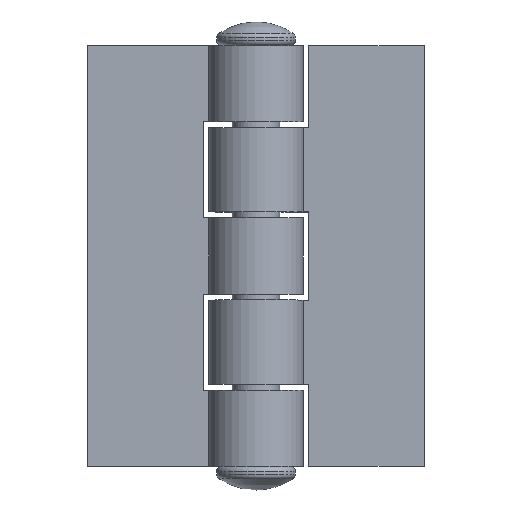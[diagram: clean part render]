
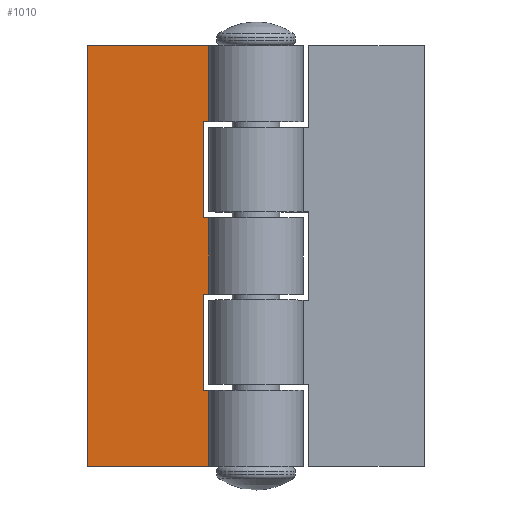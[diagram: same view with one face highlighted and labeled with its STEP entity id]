
A CAD part, top view. The second image highlights one B-rep face of the part: STEP entity #1010.
In plain terms, the highlighted planar face has unit normal (0, 0, 1) as drawn and (0, 1, 0) by its records, which use the part's own axes.
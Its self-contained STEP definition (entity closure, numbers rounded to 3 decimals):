
#95=FACE_OUTER_BOUND('',#154,.T.);
#154=EDGE_LOOP('',(#828,#829,#830,#831,#832,#833,#834,#835,#836,#837,#838,
#839));
#288=LINE('',#1605,#380);
#292=LINE('',#1613,#384);
#295=LINE('',#1627,#387);
#298=LINE('',#1642,#390);
#302=LINE('',#1658,#394);
#305=LINE('',#1664,#397);
#308=LINE('',#1678,#400);
#309=LINE('',#1680,#401);
#310=LINE('',#1682,#402);
#311=LINE('',#1684,#403);
#312=LINE('',#1685,#404);
#313=LINE('',#1686,#405);
#380=VECTOR('',#1284,18.25);
#384=VECTOR('',#1290,4.877);
#387=VECTOR('',#1303,4.877);
#390=VECTOR('',#1316,4.877);
#394=VECTOR('',#1330,18.25);
#397=VECTOR('',#1335,4.877);
#400=VECTOR('',#1348,14.5);
#401=VECTOR('',#1349,26.877);
#402=VECTOR('',#1350,80.);
#403=VECTOR('',#1351,26.877);
#404=VECTOR('',#1352,14.5);
#405=VECTOR('',#1353,14.5);
#468=VERTEX_POINT('',#1603);
#469=VERTEX_POINT('',#1604);
#472=VERTEX_POINT('',#1612);
#478=VERTEX_POINT('',#1626);
#484=VERTEX_POINT('',#1640);
#485=VERTEX_POINT('',#1641);
#492=VERTEX_POINT('',#1657);
#494=VERTEX_POINT('',#1663);
#500=VERTEX_POINT('',#1677);
#501=VERTEX_POINT('',#1679);
#502=VERTEX_POINT('',#1681);
#503=VERTEX_POINT('',#1683);
#586=EDGE_CURVE('',#468,#469,#288,.T.);
#590=EDGE_CURVE('',#469,#472,#292,.T.);
#597=EDGE_CURVE('',#478,#468,#295,.T.);
#604=EDGE_CURVE('',#484,#485,#298,.T.);
#612=EDGE_CURVE('',#492,#484,#302,.T.);
#615=EDGE_CURVE('',#494,#492,#305,.T.);
#622=EDGE_CURVE('',#500,#472,#308,.T.);
#623=EDGE_CURVE('',#501,#500,#309,.T.);
#624=EDGE_CURVE('',#501,#502,#310,.T.);
#625=EDGE_CURVE('',#503,#502,#311,.T.);
#626=EDGE_CURVE('',#494,#503,#312,.T.);
#627=EDGE_CURVE('',#478,#485,#313,.T.);
#828=ORIENTED_EDGE('',*,*,#597,.T.);
#829=ORIENTED_EDGE('',*,*,#586,.T.);
#830=ORIENTED_EDGE('',*,*,#590,.T.);
#831=ORIENTED_EDGE('',*,*,#622,.F.);
#832=ORIENTED_EDGE('',*,*,#623,.F.);
#833=ORIENTED_EDGE('',*,*,#624,.T.);
#834=ORIENTED_EDGE('',*,*,#625,.F.);
#835=ORIENTED_EDGE('',*,*,#626,.F.);
#836=ORIENTED_EDGE('',*,*,#615,.T.);
#837=ORIENTED_EDGE('',*,*,#612,.T.);
#838=ORIENTED_EDGE('',*,*,#604,.T.);
#839=ORIENTED_EDGE('',*,*,#627,.F.);
#972=PLANE('',#1106);
#1010=ADVANCED_FACE('',(#95),#972,.T.);
#1106=AXIS2_PLACEMENT_3D('',#1676,#1346,#1347);
#1284=DIRECTION('',(0.,0.,-1.));
#1290=DIRECTION('',(1.,0.,0.));
#1303=DIRECTION('',(-1.,0.,0.));
#1316=DIRECTION('',(1.,0.,0.));
#1330=DIRECTION('',(0.,0.,-1.));
#1335=DIRECTION('',(-1.,0.,0.));
#1346=DIRECTION('center_axis',(0.,1.,0.));
#1347=DIRECTION('ref_axis',(-1.,0.,0.));
#1348=DIRECTION('',(0.,0.,1.));
#1349=DIRECTION('',(1.,0.,0.));
#1350=DIRECTION('',(0.,0.,1.));
#1351=DIRECTION('',(-1.,0.,0.));
#1352=DIRECTION('',(0.,0.,1.));
#1353=DIRECTION('',(0.,0.,1.));
#1603=CARTESIAN_POINT('',(-10.,-3.,-7.25));
#1604=CARTESIAN_POINT('',(-10.,-3.,-25.5));
#1605=CARTESIAN_POINT('',(-10.,-3.,-12.188));
#1612=CARTESIAN_POINT('',(-5.123,-3.,-25.5));
#1613=CARTESIAN_POINT('',(-9.243,-3.,-25.5));
#1626=CARTESIAN_POINT('',(-5.123,-3.,-7.25));
#1627=CARTESIAN_POINT('',(0.257,-3.,-7.25));
#1640=CARTESIAN_POINT('',(-10.,-3.,7.25));
#1641=CARTESIAN_POINT('',(-5.123,-3.,7.25));
#1642=CARTESIAN_POINT('',(-9.243,-3.,7.25));
#1657=CARTESIAN_POINT('',(-10.,-3.,25.5));
#1658=CARTESIAN_POINT('',(-10.,-3.,12.75));
#1663=CARTESIAN_POINT('',(-5.123,-3.,25.5));
#1664=CARTESIAN_POINT('',(0.257,-3.,25.5));
#1676=CARTESIAN_POINT('Origin',(-8.485,-3.,0.));
#1677=CARTESIAN_POINT('',(-5.123,-3.,-40.));
#1678=CARTESIAN_POINT('',(-5.123,-3.,0.));
#1679=CARTESIAN_POINT('',(-32.,-3.,-40.));
#1680=CARTESIAN_POINT('',(-32.,-3.,-40.));
#1681=CARTESIAN_POINT('',(-32.,-3.,40.));
#1682=CARTESIAN_POINT('',(-32.,-3.,0.));
#1683=CARTESIAN_POINT('',(-5.123,-3.,40.));
#1684=CARTESIAN_POINT('',(-8.485,-3.,40.));
#1685=CARTESIAN_POINT('',(-5.123,-3.,0.));
#1686=CARTESIAN_POINT('',(-5.123,-3.,0.));
